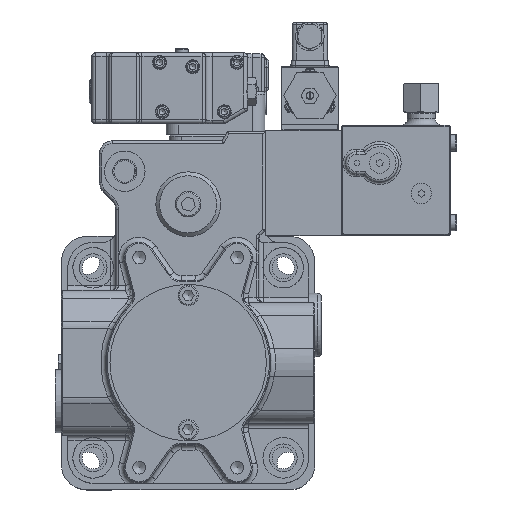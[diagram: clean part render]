
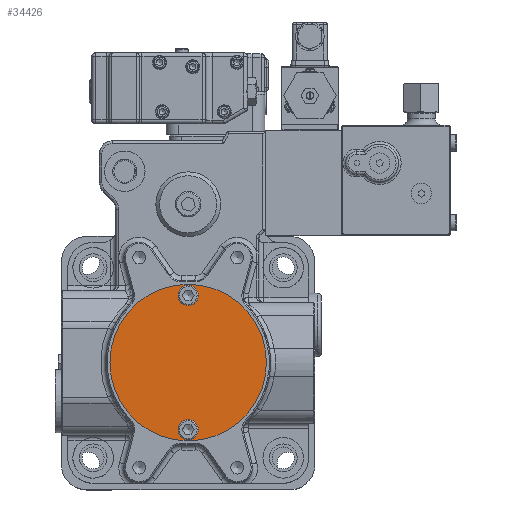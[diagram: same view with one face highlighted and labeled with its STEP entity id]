
A CAD part, top view. The second image highlights one B-rep face of the part: STEP entity #34426.
In plain terms, the highlighted planar face has unit normal (0, 0, 1).
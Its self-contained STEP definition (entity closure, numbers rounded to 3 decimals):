
#6004=PLANE('',#37173);
#7162=FACE_BOUND('',#10588,.T.);
#7163=FACE_BOUND('',#10589,.T.);
#8116=FACE_OUTER_BOUND('',#10587,.T.);
#10587=EDGE_LOOP('',(#23658));
#10588=EDGE_LOOP('',(#23659));
#10589=EDGE_LOOP('',(#23660));
#13240=CIRCLE('',#37150,0.8);
#13243=CIRCLE('',#37163,0.8);
#13244=CIRCLE('',#37172,6.175);
#15029=VERTEX_POINT('',#52793);
#15044=VERTEX_POINT('',#52851);
#15051=VERTEX_POINT('',#52891);
#18274=EDGE_CURVE('',#15029,#15029,#13240,.T.);
#18295=EDGE_CURVE('',#15044,#15044,#13243,.T.);
#18308=EDGE_CURVE('',#15051,#15051,#13244,.T.);
#23658=ORIENTED_EDGE('',*,*,#18308,.F.);
#23659=ORIENTED_EDGE('',*,*,#18274,.T.);
#23660=ORIENTED_EDGE('',*,*,#18295,.T.);
#34426=ADVANCED_FACE('',(#8116,#7162,#7163),#6004,.F.);
#37150=AXIS2_PLACEMENT_3D('',#52794,#42246,#42247);
#37163=AXIS2_PLACEMENT_3D('',#52852,#42284,#42285);
#37172=AXIS2_PLACEMENT_3D('',#52892,#42308,#42309);
#37173=AXIS2_PLACEMENT_3D('',#52893,#42310,#42311);
#42246=DIRECTION('center_axis',(0.,0.,
-1.));
#42247=DIRECTION('ref_axis',(-0.02,1.,0.));
#42284=DIRECTION('center_axis',(0.,0.,
-1.));
#42285=DIRECTION('ref_axis',(0.,1.,0.));
#42308=DIRECTION('center_axis',(0.,0.,
-1.));
#42309=DIRECTION('ref_axis',(-1.,0.,0.));
#42310=DIRECTION('center_axis',(0.,0.,
-1.));
#42311=DIRECTION('ref_axis',(-1.,0.,0.));
#52793=CARTESIAN_POINT('',(-0.016,6.1,13.55));
#52794=CARTESIAN_POINT('Origin',(0.,5.3,
13.55));
#52851=CARTESIAN_POINT('',(0.,-4.5,13.55));
#52852=CARTESIAN_POINT('Origin',(0.,-5.3,
13.55));
#52891=CARTESIAN_POINT('',(6.175,0.,13.55));
#52892=CARTESIAN_POINT('Origin',(0.,0.,
13.55));
#52893=CARTESIAN_POINT('Origin',(0.,0.,
13.55));
